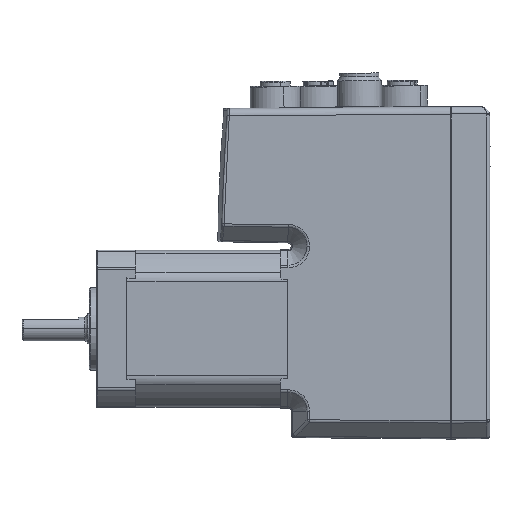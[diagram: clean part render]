
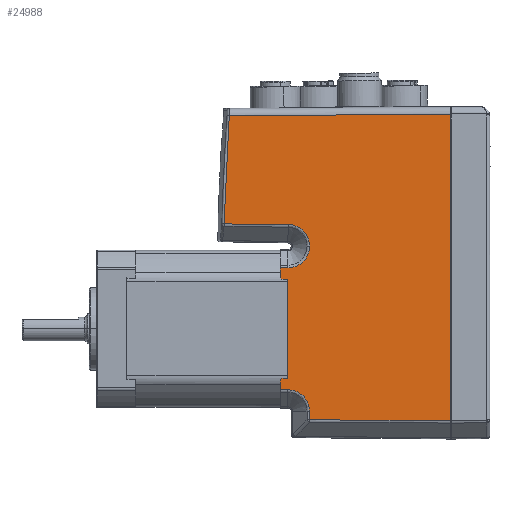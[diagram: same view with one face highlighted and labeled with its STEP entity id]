
A CAD part, top view. The second image highlights one B-rep face of the part: STEP entity #24988.
In plain terms, the highlighted planar face has unit normal (-0.009, 0, 1) as drawn and (1, 0, 0.009) by its records, which use the part's own axes.
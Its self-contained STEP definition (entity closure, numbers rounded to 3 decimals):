
#21654=CARTESIAN_POINT('',(21.014,56.864,15.64));
#21687=DIRECTION('',(-0.009,0.004,1.));
#21688=VECTOR('',#21687,37.571);
#21689=CARTESIAN_POINT('',(21.529,-24.465,
-43.4));
#21690=LINE('',#21689,#21688);
#21694=CARTESIAN_POINT('',(21.201,-22.075,
-5.831));
#21695=CARTESIAN_POINT('',(21.201,-21.308,
-5.831));
#21696=CARTESIAN_POINT('',(21.198,-19.775,
-5.523));
#21697=CARTESIAN_POINT('',(21.187,-17.834,
-4.207));
#21698=CARTESIAN_POINT('',(21.17,-16.563,
-2.257));
#21699=CARTESIAN_POINT('',(21.156,-16.279,
-0.74));
#21700=CARTESIAN_POINT('',(21.15,-16.285,
0.008));
#21705=CARTESIAN_POINT('',(21.15,16.284,
0.008));
#21706=CARTESIAN_POINT('',(21.156,16.278,
-0.74));
#21707=CARTESIAN_POINT('',(21.17,16.564,
-2.257));
#21708=CARTESIAN_POINT('',(21.187,17.834,
-4.207));
#21709=CARTESIAN_POINT('',(21.198,19.775,
-5.523));
#21710=CARTESIAN_POINT('',(21.201,21.308,
-5.831));
#21711=CARTESIAN_POINT('',(21.201,22.075,
-5.831));
#21716=CARTESIAN_POINT('',(21.201,22.075,
-5.831));
#21717=CARTESIAN_POINT('',(21.201,22.516,
-5.83));
#21718=CARTESIAN_POINT('',(21.2,23.371,
-5.734));
#21719=CARTESIAN_POINT('',(21.196,24.602,
-5.304));
#21720=CARTESIAN_POINT('',(21.19,25.699,
-4.618));
#21721=CARTESIAN_POINT('',(21.182,26.619,
-3.706));
#21722=CARTESIAN_POINT('',(21.173,27.315,
-2.615));
#21723=CARTESIAN_POINT('',(21.162,27.756,
-1.387));
#21724=CARTESIAN_POINT('',(21.155,27.859,
-0.533));
#21725=CARTESIAN_POINT('',(21.151,27.864,
-0.092));
#21730=DIRECTION('',(-0.009,0.009,1.));
#21731=VECTOR('',#21730,17.125);
#21732=CARTESIAN_POINT('',(21.151,27.864,
-0.092));
#21733=LINE('',#21732,#21731);
#21737=CARTESIAN_POINT('',(21.001,28.013,17.031));
#21738=CARTESIAN_POINT('',(21.002,37.647,16.917));
#21739=CARTESIAN_POINT('',(21.006,47.264,16.454));
#21740=CARTESIAN_POINT('',(21.014,56.864,15.64));
#21745=DIRECTION('',(0.009,0.009,-1.));
#21746=VECTOR('',#21745,59.044);
#21747=CARTESIAN_POINT('',(21.014,56.864,15.64));
#21748=LINE('',#21747,#21746);
#21752=DIRECTION('',(0.,-1.,0.));
#21753=VECTOR('',#21752,81.844);
#21754=CARTESIAN_POINT('',(21.529,57.379,
-43.4));
#21755=LINE('',#21754,#21753);
#22446=DIRECTION('',(-0.009,-0.003,1.));
#22447=VECTOR('',#22446,1.992);
#22448=CARTESIAN_POINT('',(21.15,16.284,
0.008));
#22449=LINE('',#22448,#22447);
#22468=DIRECTION('',(0.,-1.,0.));
#22469=VECTOR('',#22468,2.651);
#22470=CARTESIAN_POINT('',(21.133,16.279,2.));
#22471=LINE('',#22470,#22469);
#22584=CARTESIAN_POINT('',(21.133,13.628,2.));
#22585=CARTESIAN_POINT('',(21.133,13.58,1.955));
#22586=CARTESIAN_POINT('',(21.134,13.483,1.866));
#22587=CARTESIAN_POINT('',(21.135,13.338,1.732));
#22588=CARTESIAN_POINT('',(21.136,13.24,1.644));
#22589=CARTESIAN_POINT('',(21.136,13.192,1.6));
#22594=CARTESIAN_POINT('',(21.136,13.192,1.6));
#22595=CARTESIAN_POINT('',(21.141,13.184,1.067));
#22596=CARTESIAN_POINT('',(21.145,13.177,
0.533));
#22597=CARTESIAN_POINT('',(21.15,13.169,0.));
#22634=DIRECTION('',(0.,-1.,0.));
#22635=VECTOR('',#22634,26.339);
#22636=CARTESIAN_POINT('',(21.15,13.169,0.));
#22637=LINE('',#22636,#22635);
#22940=CARTESIAN_POINT('',(21.15,-13.169,0.));
#22941=CARTESIAN_POINT('',(21.145,-13.177,
0.533));
#22942=CARTESIAN_POINT('',(21.141,-13.184,
1.067));
#22943=CARTESIAN_POINT('',(21.136,-13.192,
1.6));
#23434=DIRECTION('',(0.,-1.,0.));
#23435=VECTOR('',#23434,2.652);
#23436=CARTESIAN_POINT('',(21.133,-13.628,
2.));
#23437=LINE('',#23436,#23435);
#23449=CARTESIAN_POINT('',(21.136,-13.192,
1.6));
#23450=CARTESIAN_POINT('',(21.136,-13.24,
1.644));
#23451=CARTESIAN_POINT('',(21.135,-13.338,
1.732));
#23452=CARTESIAN_POINT('',(21.134,-13.483,
1.866));
#23453=CARTESIAN_POINT('',(21.133,-13.58,
1.955));
#23454=CARTESIAN_POINT('',(21.133,-13.628,
2.));
#23487=DIRECTION('',(0.009,-0.003,-1.));
#23488=VECTOR('',#23487,1.992);
#23489=CARTESIAN_POINT('',(21.133,-16.28,2.));
#23490=LINE('',#23489,#23488);
#23512=DIRECTION('',(0.,-1.,0.));
#23513=VECTOR('',#23512,2.254);
#23514=CARTESIAN_POINT('',(21.201,-22.075,
-5.831));
#23515=LINE('',#23514,#23513);
#24251=CARTESIAN_POINT('',(21.529,-24.465,
-43.4));
#24252=VERTEX_POINT('',#24251);
#24255=CARTESIAN_POINT('',(21.529,57.379,
-43.4));
#24256=VERTEX_POINT('',#24255);
#24265=VERTEX_POINT('',#21654);
#24266=CARTESIAN_POINT('',(21.201,-24.329,
-5.831));
#24267=VERTEX_POINT('',#24266);
#24268=VERTEX_POINT('',#21694);
#24269=VERTEX_POINT('',#21700);
#24270=CARTESIAN_POINT('',(21.133,-13.628,
2.));
#24271=CARTESIAN_POINT('',(21.133,-16.28,2.));
#24272=VERTEX_POINT('',#24270);
#24273=VERTEX_POINT('',#24271);
#24274=CARTESIAN_POINT('',(21.133,16.279,2.));
#24275=CARTESIAN_POINT('',(21.133,13.628,2.));
#24276=VERTEX_POINT('',#24274);
#24277=VERTEX_POINT('',#24275);
#24278=VERTEX_POINT('',#21705);
#24279=VERTEX_POINT('',#21711);
#24280=VERTEX_POINT('',#21725);
#24281=CARTESIAN_POINT('',(21.001,28.013,17.031));
#24282=VERTEX_POINT('',#24281);
#24371=VERTEX_POINT('',#22589);
#24372=VERTEX_POINT('',#22597);
#24378=CARTESIAN_POINT('',(21.15,-13.169,0.));
#24379=VERTEX_POINT('',#24378);
#24405=VERTEX_POINT('',#22943);
#24947=CARTESIAN_POINT('',(21.265,16.457,
-13.185));
#24948=DIRECTION('',(1.,0.,0.009));
#24949=DIRECTION('',(0.009,0.,-1.));
#24950=AXIS2_PLACEMENT_3D('',#24947,#24948,#24949);
#24951=PLANE('',#24950);
#24953=ORIENTED_EDGE('',*,*,#24952,.T.);
#24955=ORIENTED_EDGE('',*,*,#24954,.F.);
#24957=ORIENTED_EDGE('',*,*,#24956,.T.);
#24959=ORIENTED_EDGE('',*,*,#24958,.F.);
#24961=ORIENTED_EDGE('',*,*,#24960,.F.);
#24963=ORIENTED_EDGE('',*,*,#24962,.F.);
#24965=ORIENTED_EDGE('',*,*,#24964,.F.);
#24967=ORIENTED_EDGE('',*,*,#24966,.F.);
#24969=ORIENTED_EDGE('',*,*,#24968,.F.);
#24971=ORIENTED_EDGE('',*,*,#24970,.F.);
#24973=ORIENTED_EDGE('',*,*,#24972,.F.);
#24975=ORIENTED_EDGE('',*,*,#24974,.F.);
#24977=ORIENTED_EDGE('',*,*,#24976,.T.);
#24979=ORIENTED_EDGE('',*,*,#24978,.T.);
#24981=ORIENTED_EDGE('',*,*,#24980,.T.);
#24983=ORIENTED_EDGE('',*,*,#24982,.T.);
#24984=ORIENTED_EDGE('',*,*,#24938,.T.);
#24985=ORIENTED_EDGE('',*,*,#24871,.T.);
#24986=EDGE_LOOP('',(#24953,#24955,#24957,#24959,#24961,#24963,#24965,#24967,
#24969,#24971,#24973,#24975,#24977,#24979,#24981,#24983,#24984,#24985));
#24987=FACE_OUTER_BOUND('',#24986,.F.);
#21701=B_SPLINE_CURVE_WITH_KNOTS('',3,(#21694,#21695,#21696,#21697,#21698,
#21699,#21700),.UNSPECIFIED.,.F.,.F.,(4,1,1,1,4),(0.,0.252,
0.503,0.755,1.),.UNSPECIFIED.);
#21712=B_SPLINE_CURVE_WITH_KNOTS('',3,(#21705,#21706,#21707,#21708,#21709,
#21710,#21711),.UNSPECIFIED.,.F.,.F.,(4,1,1,1,4),(0.,0.245,
0.497,0.748,1.),.UNSPECIFIED.);
#21726=B_SPLINE_CURVE_WITH_KNOTS('',3,(#21716,#21717,#21718,#21719,#21720,
#21721,#21722,#21723,#21724,#21725),.UNSPECIFIED.,.F.,.F.,(4,1,1,1,1,1,1,4),(
0.,0.143,0.286,0.429,0.571,
0.714,0.857,1.),.UNSPECIFIED.);
#21741=B_SPLINE_CURVE_WITH_KNOTS('',3,(#21737,#21738,#21739,#21740),
.UNSPECIFIED.,.F.,.F.,(4,4),(0.,1.),.UNSPECIFIED.);
#22590=B_SPLINE_CURVE_WITH_KNOTS('',3,(#22584,#22585,#22586,#22587,#22588,
#22589),.UNSPECIFIED.,.F.,.F.,(4,1,1,4),(0.,0.333,
0.667,1.),.UNSPECIFIED.);
#22598=B_SPLINE_CURVE_WITH_KNOTS('',3,(#22594,#22595,#22596,#22597),
.UNSPECIFIED.,.F.,.F.,(4,4),(0.,1.),.UNSPECIFIED.);
#22944=B_SPLINE_CURVE_WITH_KNOTS('',3,(#22940,#22941,#22942,#22943),
.UNSPECIFIED.,.F.,.F.,(4,4),(0.,1.),.UNSPECIFIED.);
#23455=B_SPLINE_CURVE_WITH_KNOTS('',3,(#23449,#23450,#23451,#23452,#23453,
#23454),.UNSPECIFIED.,.F.,.F.,(4,1,1,4),(0.,0.333,
0.667,1.),.UNSPECIFIED.);
#24871=EDGE_CURVE('',#24256,#24252,#21755,.T.);
#24938=EDGE_CURVE('',#24265,#24256,#21748,.T.);
#24952=EDGE_CURVE('',#24252,#24267,#21690,.T.);
#24954=EDGE_CURVE('',#24268,#24267,#23515,.T.);
#24956=EDGE_CURVE('',#24268,#24269,#21701,.T.);
#24958=EDGE_CURVE('',#24273,#24269,#23490,.T.);
#24960=EDGE_CURVE('',#24272,#24273,#23437,.T.);
#24962=EDGE_CURVE('',#24405,#24272,#23455,.T.);
#24964=EDGE_CURVE('',#24379,#24405,#22944,.T.);
#24966=EDGE_CURVE('',#24372,#24379,#22637,.T.);
#24968=EDGE_CURVE('',#24371,#24372,#22598,.T.);
#24970=EDGE_CURVE('',#24277,#24371,#22590,.T.);
#24972=EDGE_CURVE('',#24276,#24277,#22471,.T.);
#24974=EDGE_CURVE('',#24278,#24276,#22449,.T.);
#24976=EDGE_CURVE('',#24278,#24279,#21712,.T.);
#24978=EDGE_CURVE('',#24279,#24280,#21726,.T.);
#24980=EDGE_CURVE('',#24280,#24282,#21733,.T.);
#24982=EDGE_CURVE('',#24282,#24265,#21741,.T.);
#24988=ADVANCED_FACE('',(#24987),#24951,.T.);
